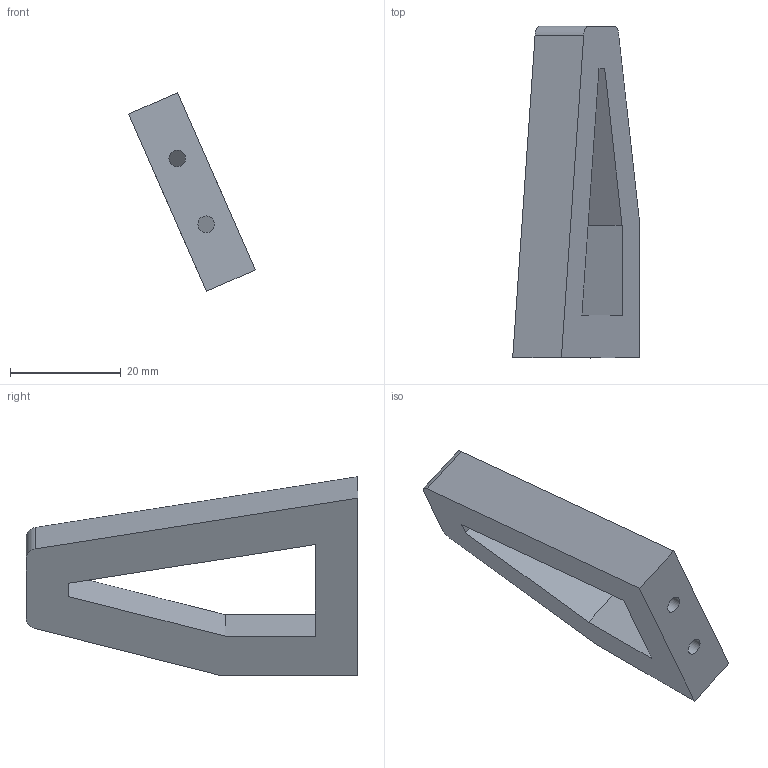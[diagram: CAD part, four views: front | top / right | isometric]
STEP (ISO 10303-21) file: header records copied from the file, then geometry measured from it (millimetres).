
FILE_DESCRIPTION(/* description */ (''),/* implementation_level */ '2;1');
FILE_NAME(/* name */ 'C:/Users/Administrator/Desktop/脚架.step',/* time_stamp */ '2022-06-02T09:48:19+08:00',/* author */ (''),/* organization */ (''),/* preprocessor_version */ 'ST-DEVELOPER v19',/* originating_system */ 'Autodesk Translation Framework v11.7.0.108',/* authorisation */ '');
FILE_SCHEMA (('AUTOMOTIVE_DESIGN { 1 0 10303 214 3 1 1 }'));
Length unit declared in the file: millimetre
Products named in the file (1): 四旋翼无人机
Bounding box: 22.89 x 60 x 35.91 mm (x, y, z)
Volume: 10418.8 mm3; surface area: 5025.9 mm2
Topology: 1 solids, 1 shells, 18 faces, 45 edges, 30 vertices
Faces by surface type: plane 13, cylinder 5
Full cylindrical faces by diameter (mm): 3 x2
Entity records: 573 total; most frequent: CARTESIAN_POINT 94, DIRECTION 93, ORIENTED_EDGE 90, EDGE_CURVE 45, LINE 35, VECTOR 35, VERTEX_POINT 30, AXIS2_PLACEMENT_3D 29
